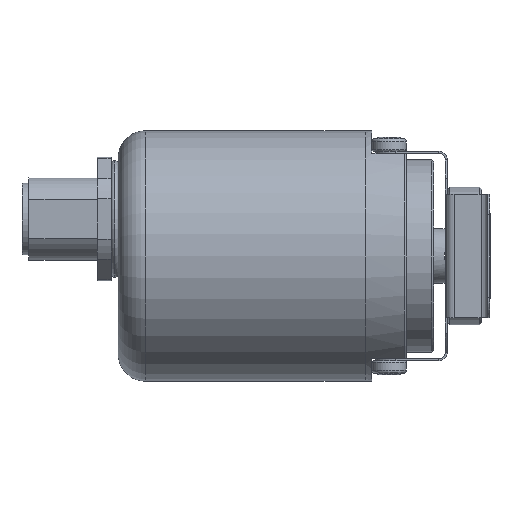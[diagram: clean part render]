
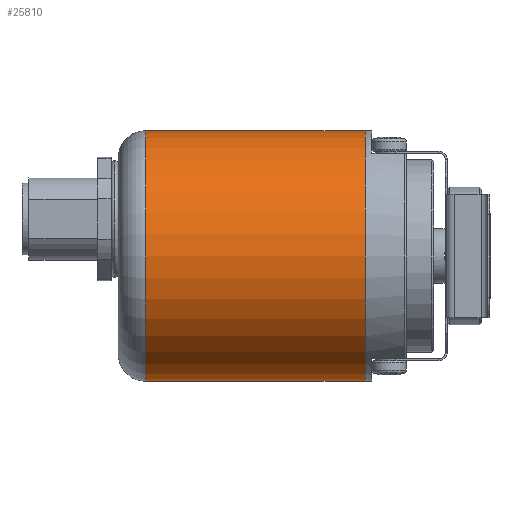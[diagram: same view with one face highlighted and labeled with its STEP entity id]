
A CAD part, front view. The second image highlights one B-rep face of the part: STEP entity #25810.
In plain terms, the highlighted cylindrical face has radius 18.25 mm (diameter 36.5 mm), a partial arc.
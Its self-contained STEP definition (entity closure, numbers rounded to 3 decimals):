
#1295 = AXIS2_PLACEMENT_3D ( 'NONE', #1894, #1904, #1905 ) ;
#1892 = CYLINDRICAL_SURFACE ( 'NONE', #1295, 18.25 ) ;
#1893 = FACE_OUTER_BOUND ( 'NONE', #24796, .T. ) ;
#1894 = CARTESIAN_POINT ( 'NONE',  ( 0., 0., 0. ) ) ;
#1904 = DIRECTION ( 'NONE',  ( 1., 0., 0. ) ) ;
#1905 = DIRECTION ( 'NONE',  ( 0., 0., -1. ) ) ;
#10966 = VECTOR ( 'NONE', #29903, 1000. ) ;
#10968 = VECTOR ( 'NONE', #29908, 1000. ) ;
#10971 = CIRCLE ( 'NONE', #10975, 18.25 ) ;
#10974 = CIRCLE ( 'NONE', #10977, 18.25 ) ;
#10975 = AXIS2_PLACEMENT_3D ( 'NONE', #29909, #29910, #29911 ) ;
#10977 = AXIS2_PLACEMENT_3D ( 'NONE', #29912, #29913, #29914 ) ;
#19297 = ORIENTED_EDGE ( 'NONE', *, *, #25452, .T. ) ;
#19299 = ORIENTED_EDGE ( 'NONE', *, *, #25450, .F. ) ;
#19300 = ORIENTED_EDGE ( 'NONE', *, *, #25453, .T. ) ;
#19344 = VERTEX_POINT ( 'NONE', #29440 ) ;
#19345 = VERTEX_POINT ( 'NONE', #29441 ) ;
#19346 = VERTEX_POINT ( 'NONE', #29442 ) ;
#19347 = VERTEX_POINT ( 'NONE', #29443 ) ;
#24796 = EDGE_LOOP ( 'NONE', ( #19299, #19300, #19297, #25363 ) ) ;
#25363 = ORIENTED_EDGE ( 'NONE', *, *, #25454, .F. ) ;
#25450 = EDGE_CURVE ( 'NONE', #19345, #19346, #29899, .T. ) ;
#25452 = EDGE_CURVE ( 'NONE', #19344, #19347, #29904, .T. ) ;
#25453 = EDGE_CURVE ( 'NONE', #19345, #19344, #10971, .T. ) ;
#25454 = EDGE_CURVE ( 'NONE', #19346, #19347, #10974, .T. ) ;
#25810 = ADVANCED_FACE ( 'NONE', ( #1893 ), #1892, .T. ) ;
#29440 = CARTESIAN_POINT ( 'NONE',  ( -50., 0., -18.25 ) ) ;
#29441 = CARTESIAN_POINT ( 'NONE',  ( -50., 0., 18.25 ) ) ;
#29442 = CARTESIAN_POINT ( 'NONE',  ( -18., 0., 18.25 ) ) ;
#29443 = CARTESIAN_POINT ( 'NONE',  ( -18., 0., -18.25 ) ) ;
#29888 = CARTESIAN_POINT ( 'NONE',  ( 0., 0., 18.25 ) ) ;
#29892 = CARTESIAN_POINT ( 'NONE',  ( 0., 0., -18.25 ) ) ;
#29899 = LINE ( 'NONE', #29888, #10966 ) ;
#29903 = DIRECTION ( 'NONE',  ( 1., 0., 0. ) ) ;
#29904 = LINE ( 'NONE', #29892, #10968 ) ;
#29908 = DIRECTION ( 'NONE',  ( 1., 0., 0. ) ) ;
#29909 = CARTESIAN_POINT ( 'NONE',  ( -50., 0., 0. ) ) ;
#29910 = DIRECTION ( 'NONE',  ( 1., 0., 0. ) ) ;
#29911 = DIRECTION ( 'NONE',  ( 0., 0., -1. ) ) ;
#29912 = CARTESIAN_POINT ( 'NONE',  ( -18., 0., 0. ) ) ;
#29913 = DIRECTION ( 'NONE',  ( 1., 0., 0. ) ) ;
#29914 = DIRECTION ( 'NONE',  ( 0., 0., -1. ) ) ;
